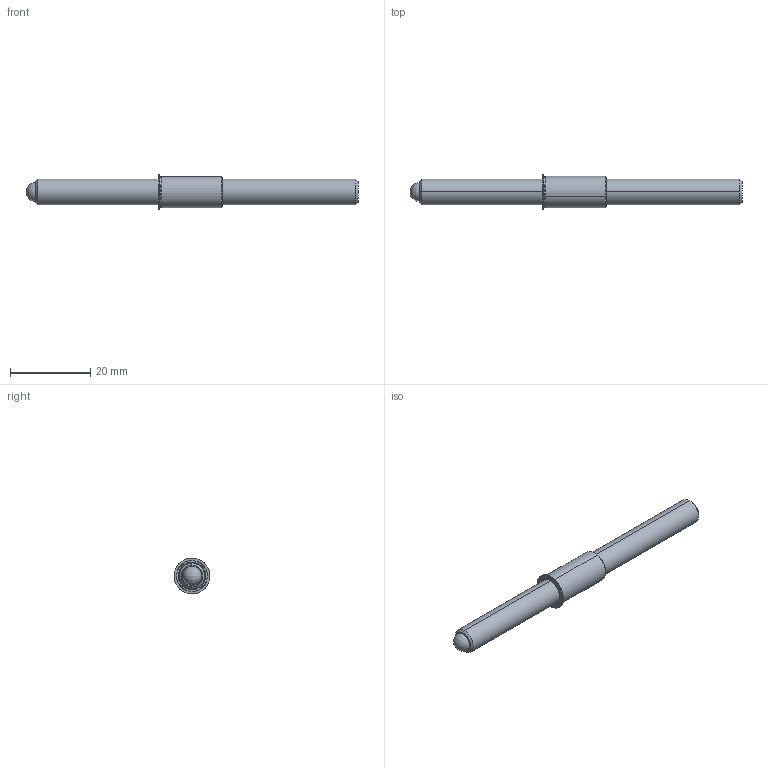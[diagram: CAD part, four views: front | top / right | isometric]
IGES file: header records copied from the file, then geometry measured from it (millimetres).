
Start section: SolidWorks IGES file using analytic representation for surfaces
Global section: file name: C:\Users\workpc\Desktop\KMA Solidworks\TSB250-80-3250_625-AA.IGS; native system: SolidWorks 2013; preprocessor: SolidWorks 2013; author: workpc; date: 130314.090654; units: inch
Bounding box: 82.55 x 8.94 x 8.94 mm (x, y, z)
Surface area: 2179.5 mm2 (no closed solid volume)
Topology: 0 solids, 0 shells, 33 faces, 406 edges, 402 vertices
Faces by surface type: revolution 22, bspline 11
